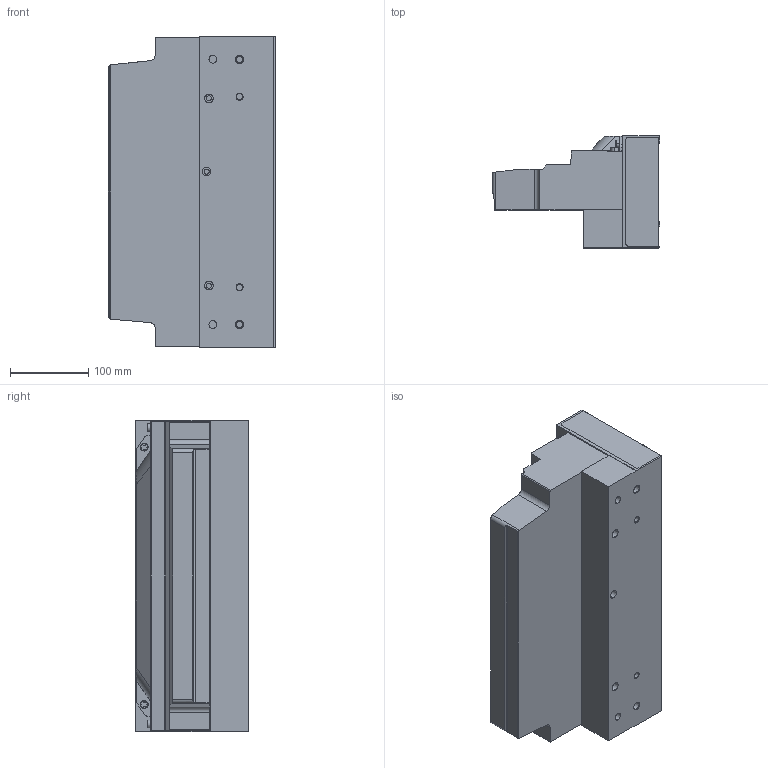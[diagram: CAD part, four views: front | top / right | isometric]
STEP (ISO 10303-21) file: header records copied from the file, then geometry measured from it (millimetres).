
FILE_DESCRIPTION((''),'2;1');
FILE_NAME('W0001038266','2024-08-14T11:36:24',('RRajan1'),('Rockwell Automation'),'CREO PARAMETRIC BY PTC INC, 2020281','CREO PARAMETRIC BY PTC INC, 2020281','');
FILE_SCHEMA(('CONFIG_CONTROL_DESIGN'));
Length unit declared in the file: millimetre
Products named in the file (1): W0001038266
Bounding box: 214.5 x 144 x 399.66 mm (x, y, z)
Volume: 7675104.1 mm3; surface area: 364433 mm2
Topology: 1 solids, 1 shells, 258 faces, 634 edges, 414 vertices
Faces by surface type: plane 135, cylinder 89, cone 24, extrusion 6, bspline 4
Entity records: 8005 total; most frequent: CARTESIAN_POINT 1715, DIRECTION 1312, ORIENTED_EDGE 1268, EDGE_CURVE 634, AXIS2_PLACEMENT_3D 448, VECTOR 416, VERTEX_POINT 414, LINE 410
